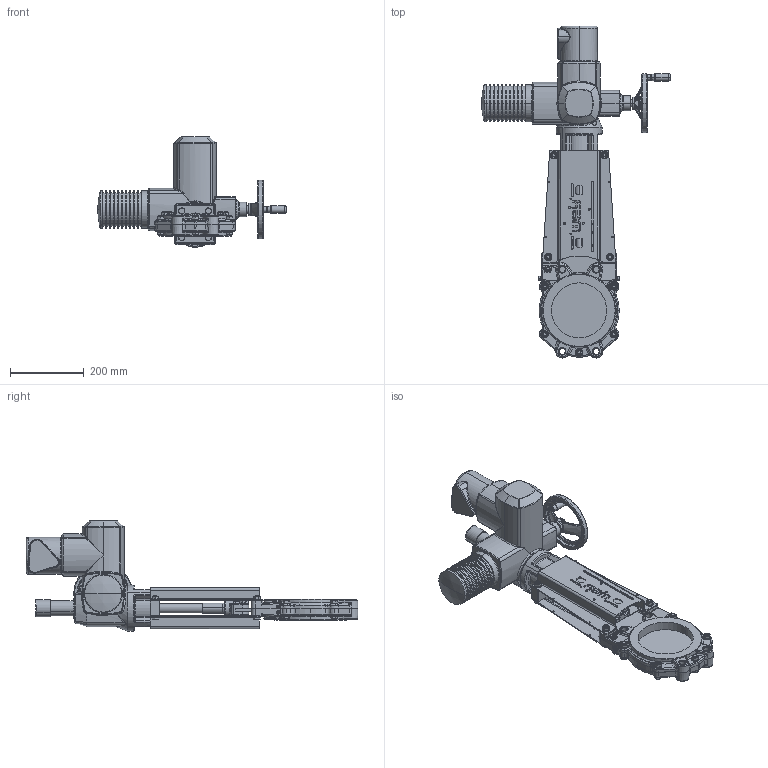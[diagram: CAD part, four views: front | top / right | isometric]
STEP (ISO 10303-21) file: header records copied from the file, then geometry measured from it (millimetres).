
FILE_DESCRIPTION (( 'STEP AP214' ), '1' );
FILE_NAME ('VSE DN 0150.STEP', '2015-09-23T11:19:41', ( 'admin' ), ( 'Hewlett-Packard Company' ), 'SwSTEP 2.0', 'SolidWorks 2013', '' );
FILE_SCHEMA (( 'AUTOMOTIVE_DESIGN' ));
Length unit declared in the file: millimetre
Products named in the file (1): VSE DN 0150
Bounding box: 513 x 902.97 x 300.5 mm (x, y, z)
Volume: 10505660.4 mm3; surface area: 1058042.1 mm2
Topology: 55 solids, 60 shells, 3016 faces, 7161 edges, 4249 vertices
Faces by surface type: plane 939, cylinder 828, cone 498, bspline 468, torus 242, sphere 41
Entity records: 140999 total; most frequent: CARTESIAN_POINT 40591, ORIENTED_EDGE 14110, DIRECTION 13674, EDGE_CURVE 7055, AXIS2_PLACEMENT_3D 5508, VERTEX_POINT 4249, EDGE_LOOP 3308, UNCERTAINTY_MEASURE_WITH_UNIT 3073
